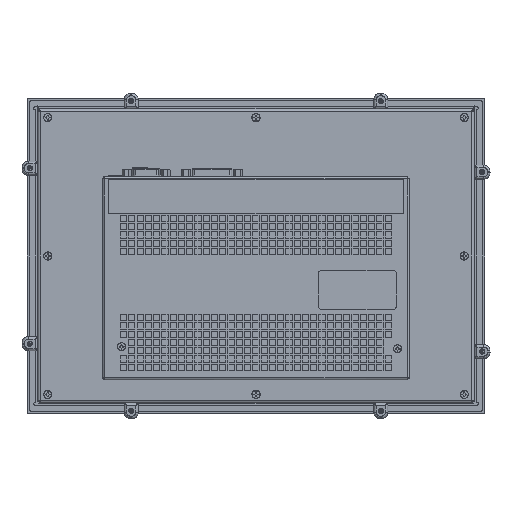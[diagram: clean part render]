
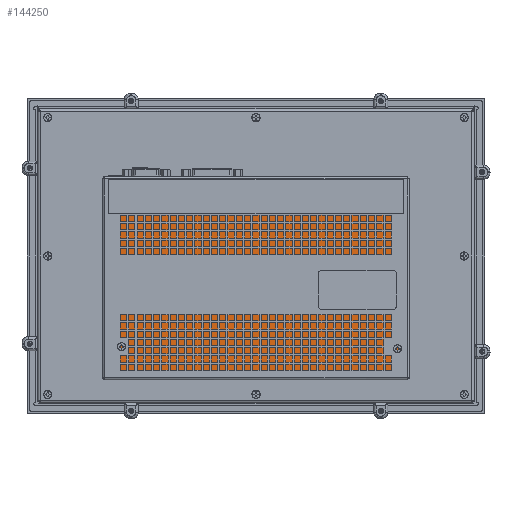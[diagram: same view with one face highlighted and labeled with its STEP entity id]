
A CAD part, front view. The second image highlights one B-rep face of the part: STEP entity #144250.
In plain terms, the highlighted planar face has unit normal (0, -1, 0) as drawn and (0, 0, 1) by its records, which use the part's own axes.
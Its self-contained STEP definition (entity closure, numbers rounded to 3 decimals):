
#7771 = CARTESIAN_POINT ( 'NONE',  ( -1.88, 62.571, 27. ) ) ;
#15217 = ORIENTED_EDGE ( 'NONE', *, *, #78936, .T. ) ;
#47875 = LINE ( 'NONE', #7771, #331592 ) ;
#48309 = FACE_OUTER_BOUND ( 'NONE', #105053, .T. ) ;
#78936 = EDGE_CURVE ( 'NONE', #134159, #112154, #305595, .T. ) ;
#80986 = PLANE ( 'NONE',  #124335 ) ;
#85317 = ORIENTED_EDGE ( 'NONE', *, *, #312221, .T. ) ;
#86846 = CARTESIAN_POINT ( 'NONE',  ( 95.07, -1.129, 27. ) ) ;
#102092 = ORIENTED_EDGE ( 'NONE', *, *, #102889, .T. ) ;
#102889 = EDGE_CURVE ( 'NONE', #136297, #330331, #200606, .T. ) ;
#105053 = EDGE_LOOP ( 'NONE', ( #85317, #15217, #119421, #102092 ) ) ;
#112154 = VERTEX_POINT ( 'NONE', #162454 ) ;
#115008 = DIRECTION ( 'NONE',  ( 0., -1., 0. ) ) ;
#119421 = ORIENTED_EDGE ( 'NONE', *, *, #207565, .T. ) ;
#124335 = AXIS2_PLACEMENT_3D ( 'NONE', #233651, #318754, #162680 ) ;
#134159 = VERTEX_POINT ( 'NONE', #334872 ) ;
#136297 = VERTEX_POINT ( 'NONE', #316468 ) ;
#144250 = ADVANCED_FACE ( 'NONE', ( #48309 ), #80986, .T. ) ;
#155002 = CARTESIAN_POINT ( 'NONE',  ( -1.88, 126.271, 27. ) ) ;
#162454 = CARTESIAN_POINT ( 'NONE',  ( 192.02, -1.129, 27. ) ) ;
#162680 = DIRECTION ( 'NONE',  ( 1., 0., 0. ) ) ;
#163572 = VECTOR ( 'NONE', #226778, 1000. ) ;
#200606 = LINE ( 'NONE', #251998, #267478 ) ;
#207565 = EDGE_CURVE ( 'NONE', #112154, #136297, #313509, .T. ) ;
#224074 = DIRECTION ( 'NONE',  ( -1., 0., 0. ) ) ;
#226778 = DIRECTION ( 'NONE',  ( 0., 1., 0. ) ) ;
#233651 = CARTESIAN_POINT ( 'NONE',  ( 95.07, 62.571, 27. ) ) ;
#251998 = CARTESIAN_POINT ( 'NONE',  ( 95.07, 126.271, 27. ) ) ;
#267478 = VECTOR ( 'NONE', #224074, 1000. ) ;
#268234 = VECTOR ( 'NONE', #295590, 1000. ) ;
#278158 = CARTESIAN_POINT ( 'NONE',  ( 192.02, 62.571, 27. ) ) ;
#295590 = DIRECTION ( 'NONE',  ( 1., 0., 0. ) ) ;
#305595 = LINE ( 'NONE', #86846, #268234 ) ;
#312221 = EDGE_CURVE ( 'NONE', #330331, #134159, #47875, .T. ) ;
#313509 = LINE ( 'NONE', #278158, #163572 ) ;
#316468 = CARTESIAN_POINT ( 'NONE',  ( 192.02, 126.271, 27. ) ) ;
#318754 = DIRECTION ( 'NONE',  ( 0., 0., 1. ) ) ;
#330331 = VERTEX_POINT ( 'NONE', #155002 ) ;
#331592 = VECTOR ( 'NONE', #115008, 1000. ) ;
#334872 = CARTESIAN_POINT ( 'NONE',  ( -1.88, -1.129, 27. ) ) ;
